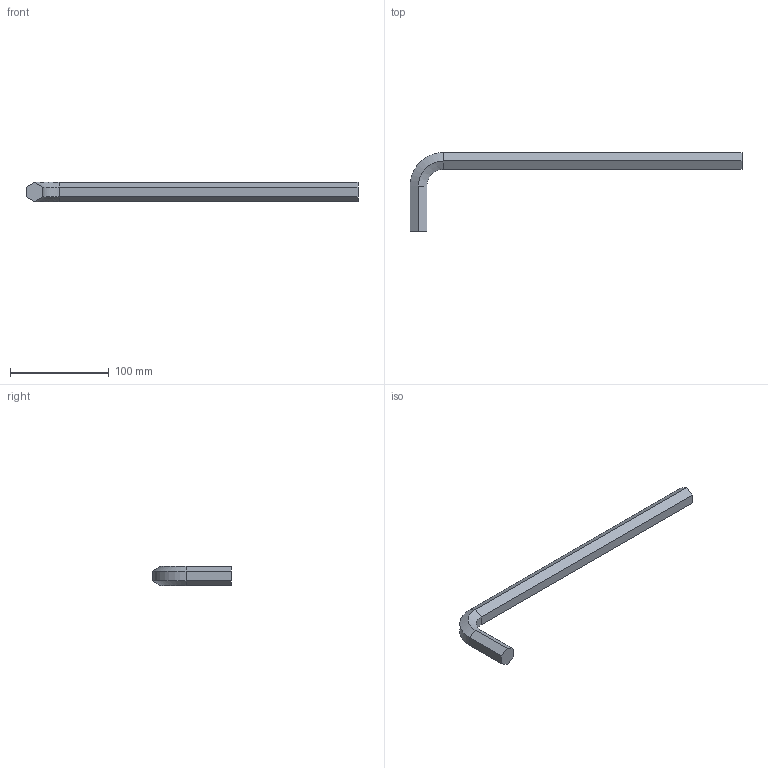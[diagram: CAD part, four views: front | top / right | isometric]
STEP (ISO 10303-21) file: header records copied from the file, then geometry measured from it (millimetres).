
FILE_DESCRIPTION(/* description */ (''),/* implementation_level */ '2;1');
FILE_NAME(/* name */ 'C:\Users\D\Documents\Inventor\各種小物\JIS\02-分解工具\六角棒スパナ2\hk-17-L.stp',/* time_stamp */ '2022-04-21T13:52:37+09:00',/* author */ ('D'),/* organization */ (''),/* preprocessor_version */ 'ST-DEVELOPER v18',/* originating_system */ 'Autodesk Inventor 2020',/* authorisation */ '');
FILE_SCHEMA (('AUTOMOTIVE_DESIGN { 1 0 10303 214 3 1 1 }'));
Length unit declared in the file: millimetre
Products named in the file (1): hk-0.7
Bounding box: 337 x 80 x 19.63 mm (x, y, z)
Volume: 97373.3 mm3; surface area: 23411.9 mm2
Topology: 1 solids, 1 shells, 20 faces, 42 edges, 24 vertices
Faces by surface type: plane 14, cone 4, cylinder 2
Entity records: 557 total; most frequent: DIRECTION 90, CARTESIAN_POINT 87, ORIENTED_EDGE 84, EDGE_CURVE 42, LINE 36, VECTOR 36, AXIS2_PLACEMENT_3D 27, VERTEX_POINT 24
